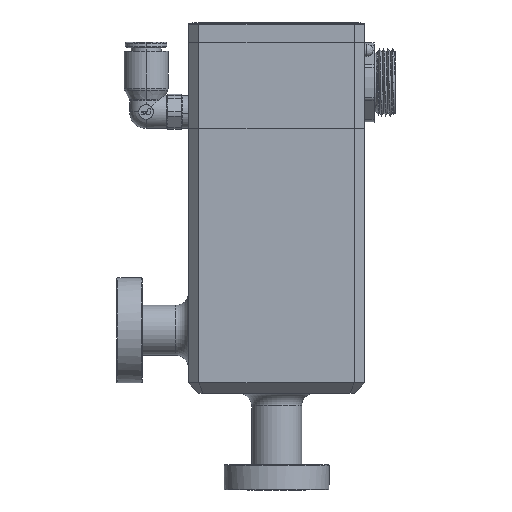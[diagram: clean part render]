
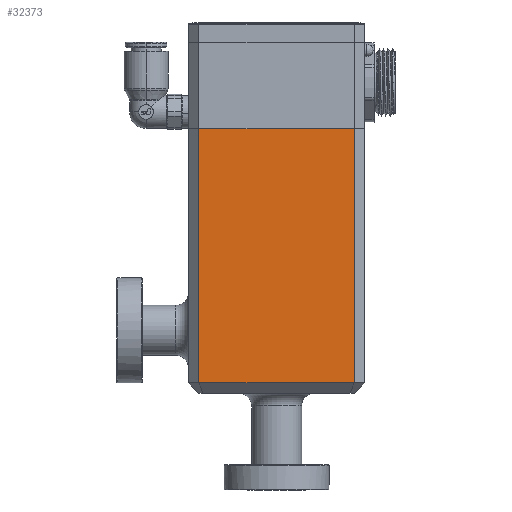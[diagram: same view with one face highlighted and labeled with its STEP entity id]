
A CAD part, front view. The second image highlights one B-rep face of the part: STEP entity #32373.
In plain terms, the highlighted planar face has unit normal (0, -1, 0).
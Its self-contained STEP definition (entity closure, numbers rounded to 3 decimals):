
#1552 = CARTESIAN_POINT ( 'NONE',  ( -21., -21., 63. ) ) ;
#5679 = CARTESIAN_POINT ( 'NONE',  ( -18.5, -21., 2.5 ) ) ;
#5884 = CARTESIAN_POINT ( 'NONE',  ( 18.5, -21., 2.5 ) ) ;
#6927 = LINE ( 'NONE', #1552, #40744 ) ;
#7042 = DIRECTION ( 'NONE',  ( 0., 0., -1. ) ) ;
#8021 = CARTESIAN_POINT ( 'NONE',  ( 14.964, -21., 2.5 ) ) ;
#8575 = PLANE ( 'NONE',  #26867 ) ;
#9617 = VECTOR ( 'NONE', #7042, 1000. ) ;
#10085 = DIRECTION ( 'NONE',  ( 0., 1., 0. ) ) ;
#17420 = ORIENTED_EDGE ( 'NONE', *, *, #29247, .T. ) ;
#24430 = DIRECTION ( 'NONE',  ( 1., 0., 0. ) ) ;
#25733 = LINE ( 'NONE', #39067, #27096 ) ;
#26135 = DIRECTION ( 'NONE',  ( 0., 0., 1. ) ) ;
#26867 = AXIS2_PLACEMENT_3D ( 'NONE', #67767, #10085, #26135 ) ;
#27096 = VECTOR ( 'NONE', #73079, 1000. ) ;
#29247 = EDGE_CURVE ( 'NONE', #47857, #45132, #71416, .T. ) ;
#31462 = CARTESIAN_POINT ( 'NONE',  ( -18.5, -21., 63. ) ) ;
#32373 = ADVANCED_FACE ( 'NONE', ( #49433 ), #8575, .F. ) ;
#32419 = VERTEX_POINT ( 'NONE', #44078 ) ;
#33476 = VERTEX_POINT ( 'NONE', #34028 ) ;
#34028 = CARTESIAN_POINT ( 'NONE',  ( -18.5, -21., 63. ) ) ;
#39067 = CARTESIAN_POINT ( 'NONE',  ( 18.5, -21., 63. ) ) ;
#40744 = VECTOR ( 'NONE', #58870, 1000. ) ;
#43884 = ORIENTED_EDGE ( 'NONE', *, *, #44271, .T. ) ;
#44078 = CARTESIAN_POINT ( 'NONE',  ( 18.5, -21., 63. ) ) ;
#44271 = EDGE_CURVE ( 'NONE', #45132, #32419, #25733, .T. ) ;
#45132 = VERTEX_POINT ( 'NONE', #5884 ) ;
#47410 = ORIENTED_EDGE ( 'NONE', *, *, #48566, .F. ) ;
#47857 = VERTEX_POINT ( 'NONE', #5679 ) ;
#48566 = EDGE_CURVE ( 'NONE', #33476, #32419, #6927, .T. ) ;
#49433 = FACE_OUTER_BOUND ( 'NONE', #57534, .T. ) ;
#57534 = EDGE_LOOP ( 'NONE', ( #64936, #17420, #43884, #47410 ) ) ;
#58870 = DIRECTION ( 'NONE',  ( 1., 0., 0. ) ) ;
#64936 = ORIENTED_EDGE ( 'NONE', *, *, #72689, .T. ) ;
#66596 = LINE ( 'NONE', #31462, #9617 ) ;
#67767 = CARTESIAN_POINT ( 'NONE',  ( -21., -21., 63. ) ) ;
#71416 = LINE ( 'NONE', #8021, #74951 ) ;
#72689 = EDGE_CURVE ( 'NONE', #33476, #47857, #66596, .T. ) ;
#73079 = DIRECTION ( 'NONE',  ( 0., 0., 1. ) ) ;
#74951 = VECTOR ( 'NONE', #24430, 1000. ) ;
